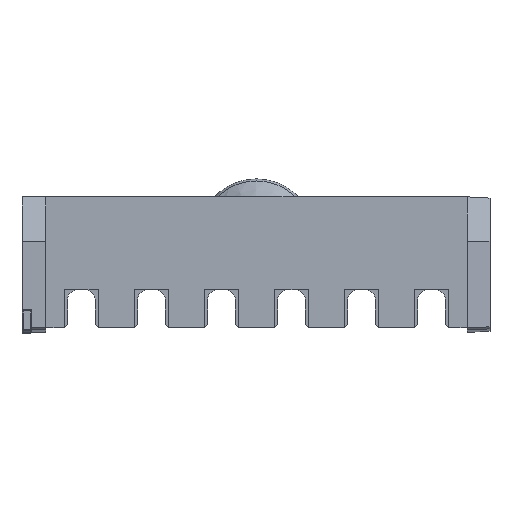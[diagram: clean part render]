
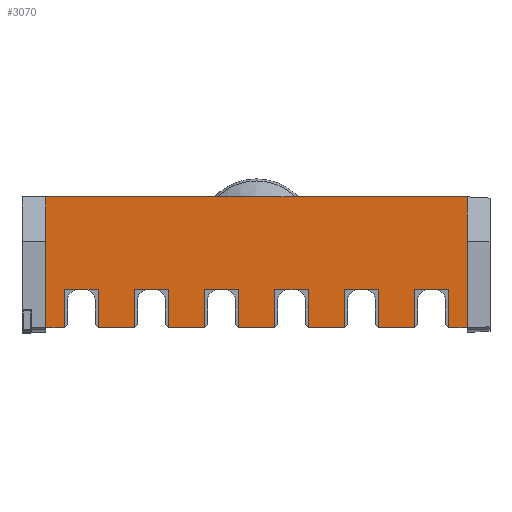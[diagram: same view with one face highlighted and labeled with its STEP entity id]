
A CAD part, top view. The second image highlights one B-rep face of the part: STEP entity #3070.
In plain terms, the highlighted planar face has unit normal (0, 0, 1).
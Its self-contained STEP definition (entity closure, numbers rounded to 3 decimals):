
#1925=LINE('',#10805,#2323);
#1929=LINE('',#10813,#2327);
#1930=LINE('',#10815,#2328);
#1931=LINE('',#10817,#2329);
#1933=LINE('',#10821,#2331);
#1935=LINE('',#10825,#2333);
#1937=LINE('',#10829,#2335);
#1938=LINE('',#10831,#2336);
#1940=LINE('',#10835,#2338);
#1943=LINE('',#10841,#2341);
#1945=LINE('',#10845,#2343);
#1946=LINE('',#10847,#2344);
#1948=LINE('',#10851,#2346);
#1951=LINE('',#10857,#2349);
#1953=LINE('',#10861,#2351);
#1954=LINE('',#10863,#2352);
#1956=LINE('',#10867,#2354);
#1959=LINE('',#10873,#2357);
#1961=LINE('',#10877,#2359);
#1962=LINE('',#10879,#2360);
#1964=LINE('',#10883,#2362);
#1967=LINE('',#10889,#2365);
#1969=LINE('',#10893,#2367);
#1970=LINE('',#10895,#2368);
#1972=LINE('',#10899,#2370);
#1975=LINE('',#10905,#2373);
#1977=LINE('',#10909,#2375);
#1978=LINE('',#10911,#2376);
#2323=VECTOR('',#8067,1.);
#2327=VECTOR('',#8073,1.);
#2328=VECTOR('',#8076,1.);
#2329=VECTOR('',#8079,1.);
#2331=VECTOR('',#8083,1.);
#2333=VECTOR('',#8087,1.);
#2335=VECTOR('',#8091,1.);
#2336=VECTOR('',#8094,1.);
#2338=VECTOR('',#8098,1.);
#2341=VECTOR('',#8103,1.);
#2343=VECTOR('',#8107,1.);
#2344=VECTOR('',#8110,1.);
#2346=VECTOR('',#8114,1.);
#2349=VECTOR('',#8119,1.);
#2351=VECTOR('',#8123,1.);
#2352=VECTOR('',#8126,1.);
#2354=VECTOR('',#8130,1.);
#2357=VECTOR('',#8135,1.);
#2359=VECTOR('',#8139,1.);
#2360=VECTOR('',#8142,1.);
#2362=VECTOR('',#8146,1.);
#2365=VECTOR('',#8151,1.);
#2367=VECTOR('',#8155,1.);
#2368=VECTOR('',#8158,1.);
#2370=VECTOR('',#8162,1.);
#2373=VECTOR('',#8167,1.);
#2375=VECTOR('',#8171,1.);
#2376=VECTOR('',#8174,1.);
#3070=ADVANCED_FACE('',(#3403),#3199,.T.);
#3199=PLANE('',#7158);
#3403=FACE_OUTER_BOUND('',#3664,.T.);
#3664=EDGE_LOOP('',(#5273,#5274,#5275,#5276,#5277,#5278,#5279,#5280,#5281,
#5282,#5283,#5284,#5285,#5286,#5287,#5288,#5289,#5290,#5291,#5292,#5293,
#5294,#5295,#5296,#5297,#5298,#5299,#5300));
#5273=ORIENTED_EDGE('',*,*,#6702,.F.);
#5274=ORIENTED_EDGE('',*,*,#6706,.F.);
#5275=ORIENTED_EDGE('',*,*,#6707,.F.);
#5276=ORIENTED_EDGE('',*,*,#6708,.F.);
#5277=ORIENTED_EDGE('',*,*,#6710,.F.);
#5278=ORIENTED_EDGE('',*,*,#6712,.F.);
#5279=ORIENTED_EDGE('',*,*,#6714,.T.);
#5280=ORIENTED_EDGE('',*,*,#6715,.T.);
#5281=ORIENTED_EDGE('',*,*,#6717,.F.);
#5282=ORIENTED_EDGE('',*,*,#6720,.F.);
#5283=ORIENTED_EDGE('',*,*,#6722,.T.);
#5284=ORIENTED_EDGE('',*,*,#6723,.T.);
#5285=ORIENTED_EDGE('',*,*,#6725,.F.);
#5286=ORIENTED_EDGE('',*,*,#6728,.F.);
#5287=ORIENTED_EDGE('',*,*,#6730,.T.);
#5288=ORIENTED_EDGE('',*,*,#6731,.T.);
#5289=ORIENTED_EDGE('',*,*,#6733,.F.);
#5290=ORIENTED_EDGE('',*,*,#6736,.F.);
#5291=ORIENTED_EDGE('',*,*,#6738,.T.);
#5292=ORIENTED_EDGE('',*,*,#6739,.T.);
#5293=ORIENTED_EDGE('',*,*,#6741,.F.);
#5294=ORIENTED_EDGE('',*,*,#6744,.F.);
#5295=ORIENTED_EDGE('',*,*,#6746,.T.);
#5296=ORIENTED_EDGE('',*,*,#6747,.T.);
#5297=ORIENTED_EDGE('',*,*,#6749,.F.);
#5298=ORIENTED_EDGE('',*,*,#6752,.F.);
#5299=ORIENTED_EDGE('',*,*,#6754,.T.);
#5300=ORIENTED_EDGE('',*,*,#6755,.T.);
#5851=VERTEX_POINT('',#10584);
#5866=VERTEX_POINT('',#10624);
#5912=VERTEX_POINT('',#10806);
#5913=VERTEX_POINT('',#10807);
#5914=VERTEX_POINT('',#10812);
#5915=VERTEX_POINT('',#10820);
#5916=VERTEX_POINT('',#10824);
#5917=VERTEX_POINT('',#10828);
#5918=VERTEX_POINT('',#10832);
#5919=VERTEX_POINT('',#10836);
#5920=VERTEX_POINT('',#10840);
#5921=VERTEX_POINT('',#10844);
#5922=VERTEX_POINT('',#10848);
#5923=VERTEX_POINT('',#10852);
#5924=VERTEX_POINT('',#10856);
#5925=VERTEX_POINT('',#10860);
#5926=VERTEX_POINT('',#10864);
#5927=VERTEX_POINT('',#10868);
#5928=VERTEX_POINT('',#10872);
#5929=VERTEX_POINT('',#10876);
#5930=VERTEX_POINT('',#10880);
#5931=VERTEX_POINT('',#10884);
#5932=VERTEX_POINT('',#10888);
#5933=VERTEX_POINT('',#10892);
#5934=VERTEX_POINT('',#10896);
#5935=VERTEX_POINT('',#10900);
#5936=VERTEX_POINT('',#10904);
#5937=VERTEX_POINT('',#10908);
#6702=EDGE_CURVE('',#5912,#5913,#1925,.T.);
#6706=EDGE_CURVE('',#5914,#5912,#1929,.T.);
#6707=EDGE_CURVE('',#5851,#5914,#1930,.T.);
#6708=EDGE_CURVE('',#5866,#5851,#1931,.T.);
#6710=EDGE_CURVE('',#5915,#5866,#1933,.T.);
#6712=EDGE_CURVE('',#5916,#5915,#1935,.T.);
#6714=EDGE_CURVE('',#5916,#5917,#1937,.T.);
#6715=EDGE_CURVE('',#5917,#5918,#1938,.T.);
#6717=EDGE_CURVE('',#5919,#5918,#1940,.T.);
#6720=EDGE_CURVE('',#5920,#5919,#1943,.T.);
#6722=EDGE_CURVE('',#5920,#5921,#1945,.T.);
#6723=EDGE_CURVE('',#5921,#5922,#1946,.T.);
#6725=EDGE_CURVE('',#5923,#5922,#1948,.T.);
#6728=EDGE_CURVE('',#5924,#5923,#1951,.T.);
#6730=EDGE_CURVE('',#5924,#5925,#1953,.T.);
#6731=EDGE_CURVE('',#5925,#5926,#1954,.T.);
#6733=EDGE_CURVE('',#5927,#5926,#1956,.T.);
#6736=EDGE_CURVE('',#5928,#5927,#1959,.T.);
#6738=EDGE_CURVE('',#5928,#5929,#1961,.T.);
#6739=EDGE_CURVE('',#5929,#5930,#1962,.T.);
#6741=EDGE_CURVE('',#5931,#5930,#1964,.T.);
#6744=EDGE_CURVE('',#5932,#5931,#1967,.T.);
#6746=EDGE_CURVE('',#5932,#5933,#1969,.T.);
#6747=EDGE_CURVE('',#5933,#5934,#1970,.T.);
#6749=EDGE_CURVE('',#5935,#5934,#1972,.T.);
#6752=EDGE_CURVE('',#5936,#5935,#1975,.T.);
#6754=EDGE_CURVE('',#5936,#5937,#1977,.T.);
#6755=EDGE_CURVE('',#5937,#5913,#1978,.T.);
#7158=AXIS2_PLACEMENT_3D('',#10913,#8177,#8178);
#8067=DIRECTION('',(0.,1.,0.));
#8073=DIRECTION('',(-1.,0.,0.));
#8076=DIRECTION('',(0.,-1.,0.));
#8079=DIRECTION('',(1.,0.,0.));
#8083=DIRECTION('',(0.,1.,0.));
#8087=DIRECTION('',(-1.,0.,0.));
#8091=DIRECTION('',(0.,1.,0.));
#8094=DIRECTION('',(1.,0.,0.));
#8098=DIRECTION('',(0.,1.,0.));
#8103=DIRECTION('',(-1.,0.,0.));
#8107=DIRECTION('',(0.,1.,0.));
#8110=DIRECTION('',(1.,0.,0.));
#8114=DIRECTION('',(0.,1.,0.));
#8119=DIRECTION('',(-1.,0.,0.));
#8123=DIRECTION('',(0.,1.,0.));
#8126=DIRECTION('',(1.,0.,0.));
#8130=DIRECTION('',(0.,1.,0.));
#8135=DIRECTION('',(-1.,0.,0.));
#8139=DIRECTION('',(0.,1.,0.));
#8142=DIRECTION('',(1.,0.,0.));
#8146=DIRECTION('',(0.,1.,0.));
#8151=DIRECTION('',(-1.,0.,0.));
#8155=DIRECTION('',(0.,1.,0.));
#8158=DIRECTION('',(1.,0.,0.));
#8162=DIRECTION('',(0.,1.,0.));
#8167=DIRECTION('',(-1.,0.,0.));
#8171=DIRECTION('',(0.,1.,0.));
#8174=DIRECTION('',(1.,0.,0.));
#8177=DIRECTION('',(0.,0.,1.));
#8178=DIRECTION('',(1.,0.,0.));
#10584=CARTESIAN_POINT('',(165.25,47.25,1.8));
#10624=CARTESIAN_POINT('',(-15.25,47.25,1.8));
#10805=CARTESIAN_POINT('',(157.25,-8.75,1.8));
#10806=CARTESIAN_POINT('',(157.25,-8.75,1.8));
#10807=CARTESIAN_POINT('',(157.25,7.75,1.8));
#10812=CARTESIAN_POINT('',(165.25,-8.75,1.8));
#10813=CARTESIAN_POINT('',(75.,-8.75,1.8));
#10815=CARTESIAN_POINT('',(165.25,19.25,1.8));
#10817=CARTESIAN_POINT('',(75.,47.25,1.8));
#10820=CARTESIAN_POINT('',(-15.25,-8.75,1.8));
#10821=CARTESIAN_POINT('',(-15.25,19.25,1.8));
#10824=CARTESIAN_POINT('',(-7.25,-8.75,1.8));
#10825=CARTESIAN_POINT('',(75.,-8.75,1.8));
#10828=CARTESIAN_POINT('',(-7.25,7.75,1.8));
#10829=CARTESIAN_POINT('',(-7.25,-8.75,1.8));
#10831=CARTESIAN_POINT('',(-7.25,7.75,1.8));
#10832=CARTESIAN_POINT('',(7.25,7.75,1.8));
#10835=CARTESIAN_POINT('',(7.25,-8.75,1.8));
#10836=CARTESIAN_POINT('',(7.25,-8.75,1.8));
#10840=CARTESIAN_POINT('',(22.75,-8.75,1.8));
#10841=CARTESIAN_POINT('',(75.,-8.75,1.8));
#10844=CARTESIAN_POINT('',(22.75,7.75,1.8));
#10845=CARTESIAN_POINT('',(22.75,-8.75,1.8));
#10847=CARTESIAN_POINT('',(22.75,7.75,1.8));
#10848=CARTESIAN_POINT('',(37.25,7.75,1.8));
#10851=CARTESIAN_POINT('',(37.25,-8.75,1.8));
#10852=CARTESIAN_POINT('',(37.25,-8.75,1.8));
#10856=CARTESIAN_POINT('',(52.75,-8.75,1.8));
#10857=CARTESIAN_POINT('',(75.,-8.75,1.8));
#10860=CARTESIAN_POINT('',(52.75,7.75,1.8));
#10861=CARTESIAN_POINT('',(52.75,-8.75,1.8));
#10863=CARTESIAN_POINT('',(52.75,7.75,1.8));
#10864=CARTESIAN_POINT('',(67.25,7.75,1.8));
#10867=CARTESIAN_POINT('',(67.25,-8.75,1.8));
#10868=CARTESIAN_POINT('',(67.25,-8.75,1.8));
#10872=CARTESIAN_POINT('',(82.75,-8.75,1.8));
#10873=CARTESIAN_POINT('',(75.,-8.75,1.8));
#10876=CARTESIAN_POINT('',(82.75,7.75,1.8));
#10877=CARTESIAN_POINT('',(82.75,-8.75,1.8));
#10879=CARTESIAN_POINT('',(82.75,7.75,1.8));
#10880=CARTESIAN_POINT('',(97.25,7.75,1.8));
#10883=CARTESIAN_POINT('',(97.25,-8.75,1.8));
#10884=CARTESIAN_POINT('',(97.25,-8.75,1.8));
#10888=CARTESIAN_POINT('',(112.75,-8.75,1.8));
#10889=CARTESIAN_POINT('',(75.,-8.75,1.8));
#10892=CARTESIAN_POINT('',(112.75,7.75,1.8));
#10893=CARTESIAN_POINT('',(112.75,-8.75,1.8));
#10895=CARTESIAN_POINT('',(112.75,7.75,1.8));
#10896=CARTESIAN_POINT('',(127.25,7.75,1.8));
#10899=CARTESIAN_POINT('',(127.25,-8.75,1.8));
#10900=CARTESIAN_POINT('',(127.25,-8.75,1.8));
#10904=CARTESIAN_POINT('',(142.75,-8.75,1.8));
#10905=CARTESIAN_POINT('',(75.,-8.75,1.8));
#10908=CARTESIAN_POINT('',(142.75,7.75,1.8));
#10909=CARTESIAN_POINT('',(142.75,-8.75,1.8));
#10911=CARTESIAN_POINT('',(142.75,7.75,1.8));
#10913=CARTESIAN_POINT('',(75.,19.25,1.8));
